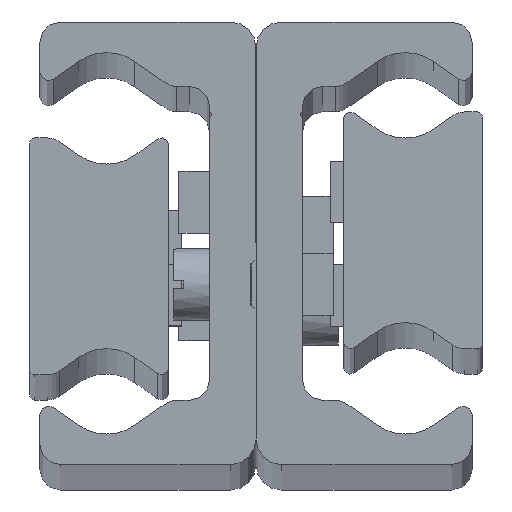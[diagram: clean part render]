
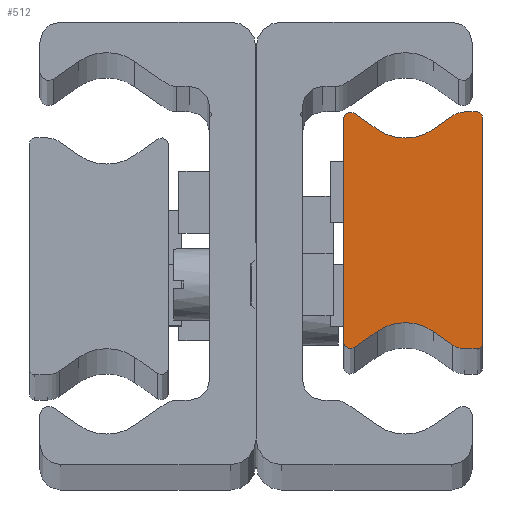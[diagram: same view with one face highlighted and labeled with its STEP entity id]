
A CAD part, top view. The second image highlights one B-rep face of the part: STEP entity #512.
In plain terms, the highlighted planar face has unit normal (0, 0, 1) as drawn and (0, 0, -1) by its records, which use the part's own axes.
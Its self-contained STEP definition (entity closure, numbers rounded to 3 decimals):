
#512 = ADVANCED_FACE( '', ( #1161 ), #1162, .F. );
#1161 = FACE_OUTER_BOUND( '', #2003, .T. );
#1162 = PLANE( '', #2004 );
#2003 = EDGE_LOOP( '', ( #3233, #3234, #3235, #3236, #3237, #3238, #3239, #3240, #3241, #3242, #3243, #3244, #3245, #3246, #3247, #3248 ) );
#2004 = AXIS2_PLACEMENT_3D( '', #3249, #3250, #3251 );
#3233 = ORIENTED_EDGE( '', *, *, #4498, .F. );
#3234 = ORIENTED_EDGE( '', *, *, #4499, .F. );
#3235 = ORIENTED_EDGE( '', *, *, #4239, .F. );
#3236 = ORIENTED_EDGE( '', *, *, #4375, .F. );
#3237 = ORIENTED_EDGE( '', *, *, #4500, .F. );
#3238 = ORIENTED_EDGE( '', *, *, #4501, .T. );
#3239 = ORIENTED_EDGE( '', *, *, #4502, .F. );
#3240 = ORIENTED_EDGE( '', *, *, #4503, .F. );
#3241 = ORIENTED_EDGE( '', *, *, #4504, .F. );
#3242 = ORIENTED_EDGE( '', *, *, #4485, .F. );
#3243 = ORIENTED_EDGE( '', *, *, #4505, .F. );
#3244 = ORIENTED_EDGE( '', *, *, #4243, .T. );
#3245 = ORIENTED_EDGE( '', *, *, #4506, .F. );
#3246 = ORIENTED_EDGE( '', *, *, #4356, .F. );
#3247 = ORIENTED_EDGE( '', *, *, #4507, .F. );
#3248 = ORIENTED_EDGE( '', *, *, #4479, .F. );
#3249 = CARTESIAN_POINT( '', ( 0.5, -11., -1410. ) );
#3250 = DIRECTION( '', ( 0., 0., 1. ) );
#3251 = DIRECTION( '', ( 1., 0., 0. ) );
#4239 = EDGE_CURVE( '', #4951, #4953, #4954, .T. );
#4243 = EDGE_CURVE( '', #4959, #4957, #4960, .T. );
#4356 = EDGE_CURVE( '', #5141, #5143, #5144, .T. );
#4375 = EDGE_CURVE( '', #5172, #4951, #5174, .T. );
#4479 = EDGE_CURVE( '', #5333, #5335, #5336, .T. );
#4485 = EDGE_CURVE( '', #5342, #5344, #5345, .T. );
#4498 = EDGE_CURVE( '', #5363, #5333, #5364, .T. );
#4499 = EDGE_CURVE( '', #4953, #5363, #5365, .T. );
#4500 = EDGE_CURVE( '', #5366, #5172, #5367, .T. );
#4501 = EDGE_CURVE( '', #5366, #5368, #5369, .T. );
#4502 = EDGE_CURVE( '', #5370, #5368, #5371, .T. );
#4503 = EDGE_CURVE( '', #5372, #5370, #5373, .T. );
#4504 = EDGE_CURVE( '', #5344, #5372, #5374, .T. );
#4505 = EDGE_CURVE( '', #4959, #5342, #5375, .T. );
#4506 = EDGE_CURVE( '', #5143, #4957, #5376, .T. );
#4507 = EDGE_CURVE( '', #5335, #5141, #5377, .T. );
#4951 = VERTEX_POINT( '', #5932 );
#4953 = VERTEX_POINT( '', #5935 );
#4954 = LINE( '', #5936, #5937 );
#4957 = VERTEX_POINT( '', #5941 );
#4959 = VERTEX_POINT( '', #5944 );
#4960 = CIRCLE( '', #5945, 4.763 );
#5141 = VERTEX_POINT( '', #6171 );
#5143 = VERTEX_POINT( '', #6174 );
#5144 = CIRCLE( '', #6175, 2. );
#5172 = VERTEX_POINT( '', #6206 );
#5174 = CIRCLE( '', #6209, 2. );
#5333 = VERTEX_POINT( '', #6409 );
#5335 = VERTEX_POINT( '', #6412 );
#5336 = CIRCLE( '', #6413, 0.5 );
#5342 = VERTEX_POINT( '', #6420 );
#5344 = VERTEX_POINT( '', #6423 );
#5345 = CIRCLE( '', #6424, 0.668 );
#5363 = VERTEX_POINT( '', #6446 );
#5364 = LINE( '', #6447, #6448 );
#5365 = CIRCLE( '', #6449, 0.5 );
#5366 = VERTEX_POINT( '', #6450 );
#5367 = LINE( '', #6451, #6452 );
#5368 = VERTEX_POINT( '', #6453 );
#5369 = CIRCLE( '', #6454, 4.763 );
#5370 = VERTEX_POINT( '', #6455 );
#5371 = LINE( '', #6456, #6457 );
#5372 = VERTEX_POINT( '', #6458 );
#5373 = CIRCLE( '', #6459, 0.668 );
#5374 = LINE( '', #6460, #6461 );
#5375 = LINE( '', #6462, #6463 );
#5376 = LINE( '', #6464, #6465 );
#5377 = LINE( '', #6466, #6467 );
#5932 = CARTESIAN_POINT( '', ( 1.748, 11.5, -1410. ) );
#5935 = CARTESIAN_POINT( '', ( 0.5, 11.5, -1410. ) );
#5936 = CARTESIAN_POINT( '', ( 1.748, 11.5, -1410. ) );
#5937 = VECTOR( '', #7013, 1000. );
#5941 = CARTESIAN_POINT( '', ( 4.768, -9.827, -1410. ) );
#5944 = CARTESIAN_POINT( '', ( 10.232, -9.827, -1410. ) );
#5945 = AXIS2_PLACEMENT_3D( '', #7016, #7017, #7018 );
#6171 = CARTESIAN_POINT( '', ( 1.748, -11.5, -1410. ) );
#6174 = CARTESIAN_POINT( '', ( 2.895, -11.138, -1410. ) );
#6175 = AXIS2_PLACEMENT_3D( '', #7167, #7168, #7169 );
#6206 = CARTESIAN_POINT( '', ( 2.895, 11.138, -1410. ) );
#6209 = AXIS2_PLACEMENT_3D( '', #7198, #7199, #7200 );
#6409 = CARTESIAN_POINT( '', ( 0., -11., -1410. ) );
#6412 = CARTESIAN_POINT( '', ( 0.5, -11.5, -1410. ) );
#6413 = AXIS2_PLACEMENT_3D( '', #7351, #7352, #7353 );
#6420 = CARTESIAN_POINT( '', ( 12.449, -11.379, -1410. ) );
#6423 = CARTESIAN_POINT( '', ( 13.5, -10.832, -1410. ) );
#6424 = AXIS2_PLACEMENT_3D( '', #7359, #7360, #7361 );
#6446 = CARTESIAN_POINT( '', ( 0., 11., -1410. ) );
#6447 = CARTESIAN_POINT( '', ( 0., 11., -1410. ) );
#6448 = VECTOR( '', #7375, 1000. );
#6449 = AXIS2_PLACEMENT_3D( '', #7376, #7377, #7378 );
#6450 = CARTESIAN_POINT( '', ( 4.768, 9.827, -1410. ) );
#6451 = CARTESIAN_POINT( '', ( 4.768, 9.827, -1410. ) );
#6452 = VECTOR( '', #7379, 1000. );
#6453 = CARTESIAN_POINT( '', ( 10.232, 9.827, -1410. ) );
#6454 = AXIS2_PLACEMENT_3D( '', #7380, #7381, #7382 );
#6455 = CARTESIAN_POINT( '', ( 12.449, 11.379, -1410. ) );
#6456 = CARTESIAN_POINT( '', ( 12.449, 11.379, -1410. ) );
#6457 = VECTOR( '', #7383, 1000. );
#6458 = CARTESIAN_POINT( '', ( 13.5, 10.832, -1410. ) );
#6459 = AXIS2_PLACEMENT_3D( '', #7384, #7385, #7386 );
#6460 = CARTESIAN_POINT( '', ( 13.5, -10.832, -1410. ) );
#6461 = VECTOR( '', #7387, 1000. );
#6462 = CARTESIAN_POINT( '', ( 10.232, -9.827, -1410. ) );
#6463 = VECTOR( '', #7388, 1000. );
#6464 = CARTESIAN_POINT( '', ( 2.895, -11.138, -1410. ) );
#6465 = VECTOR( '', #7389, 1000. );
#6466 = CARTESIAN_POINT( '', ( 0.5, -11.5, -1410. ) );
#6467 = VECTOR( '', #7390, 1000. );
#7013 = DIRECTION( '', ( -1., 0., 0. ) );
#7016 = CARTESIAN_POINT( '', ( 7.5, -13.729, -1410. ) );
#7017 = DIRECTION( '', ( 0., 0., 1. ) );
#7018 = DIRECTION( '', ( 1., 0., 0. ) );
#7167 = CARTESIAN_POINT( '', ( 1.748, -9.5, -1410. ) );
#7168 = DIRECTION( '', ( 0., 0., 1. ) );
#7169 = DIRECTION( '', ( 1., 0., 0. ) );
#7198 = CARTESIAN_POINT( '', ( 1.748, 9.5, -1410. ) );
#7199 = DIRECTION( '', ( 0., 0., 1. ) );
#7200 = DIRECTION( '', ( 1., 0., 0. ) );
#7351 = CARTESIAN_POINT( '', ( 0.5, -11., -1410. ) );
#7352 = DIRECTION( '', ( 0., 0., 1. ) );
#7353 = DIRECTION( '', ( 1., 0., 0. ) );
#7359 = CARTESIAN_POINT( '', ( 12.832, -10.832, -1410. ) );
#7360 = DIRECTION( '', ( 0., 0., 1. ) );
#7361 = DIRECTION( '', ( 1., 0., 0. ) );
#7375 = DIRECTION( '', ( 0., -1., 0. ) );
#7376 = CARTESIAN_POINT( '', ( 0.5, 11., -1410. ) );
#7377 = DIRECTION( '', ( 0., 0., 1. ) );
#7378 = DIRECTION( '', ( 1., 0., 0. ) );
#7379 = DIRECTION( '', ( -0.819, 0.574, 0. ) );
#7380 = CARTESIAN_POINT( '', ( 7.5, 13.729, -1410. ) );
#7381 = DIRECTION( '', ( 0., 0., 1. ) );
#7382 = DIRECTION( '', ( 1., 0., 0. ) );
#7383 = DIRECTION( '', ( -0.819, -0.574, 0. ) );
#7384 = CARTESIAN_POINT( '', ( 12.832, 10.832, -1410. ) );
#7385 = DIRECTION( '', ( 0., 0., 1. ) );
#7386 = DIRECTION( '', ( 1., 0., 0. ) );
#7387 = DIRECTION( '', ( 0., 1., 0. ) );
#7388 = DIRECTION( '', ( 0.819, -0.574, 0. ) );
#7389 = DIRECTION( '', ( 0.819, 0.574, 0. ) );
#7390 = DIRECTION( '', ( 1., 0., 0. ) );
